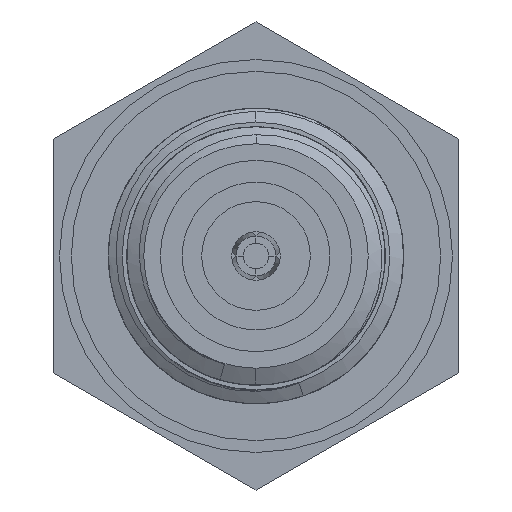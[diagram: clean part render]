
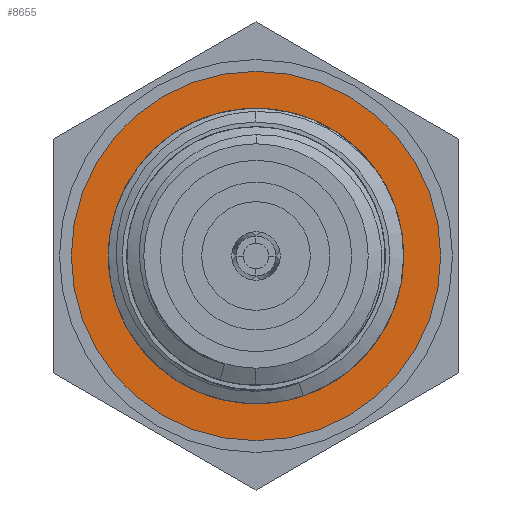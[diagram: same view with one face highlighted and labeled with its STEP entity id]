
A CAD part, left-side view. The second image highlights one B-rep face of the part: STEP entity #8655.
In plain terms, the highlighted planar face has unit normal (-1, 0, 0).
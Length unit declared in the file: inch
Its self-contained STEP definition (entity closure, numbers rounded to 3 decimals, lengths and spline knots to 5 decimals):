
#213=CARTESIAN_POINT('',(-0.013,0.,0.));
#214=DIRECTION('',(1.,0.,0.));
#215=DIRECTION('',(0.,0.,1.));
#216=AXIS2_PLACEMENT_3D('',#213,#214,#215);
#218=CARTESIAN_POINT('',(-0.013,0.,0.));
#219=DIRECTION('',(1.,0.,0.));
#220=DIRECTION('',(0.,0.,-1.));
#221=AXIS2_PLACEMENT_3D('',#218,#219,#220);
#223=CARTESIAN_POINT('',(-0.013,0.,0.));
#224=DIRECTION('',(-1.,0.,0.));
#225=DIRECTION('',(0.,1.,0.));
#226=AXIS2_PLACEMENT_3D('',#223,#224,#225);
#228=CARTESIAN_POINT('',(-0.013,0.,0.));
#229=DIRECTION('',(-1.,0.,0.));
#230=DIRECTION('',(0.,-1.,0.));
#231=AXIS2_PLACEMENT_3D('',#228,#229,#230);
#7003=CARTESIAN_POINT('',(-0.013,0.,-0.3125));
#7004=VERTEX_POINT('',#7003);
#7005=CARTESIAN_POINT('',(-0.013,0.,0.3125));
#7006=VERTEX_POINT('',#7005);
#7007=CARTESIAN_POINT('',(-0.013,0.25,0.));
#7008=CARTESIAN_POINT('',(-0.013,-0.25,0.));
#7009=VERTEX_POINT('',#7007);
#7010=VERTEX_POINT('',#7008);
#8640=CARTESIAN_POINT('',(-0.013,0.,0.));
#8641=DIRECTION('',(1.,0.,0.));
#8642=DIRECTION('',(0.,0.,1.));
#8643=AXIS2_PLACEMENT_3D('',#8640,#8641,#8642);
#8644=PLANE('',#8643);
#8645=ORIENTED_EDGE('',*,*,#8620,.T.);
#8646=ORIENTED_EDGE('',*,*,#8634,.T.);
#8647=EDGE_LOOP('',(#8645,#8646));
#8648=FACE_OUTER_BOUND('',#8647,.F.);
#8650=ORIENTED_EDGE('',*,*,#8649,.T.);
#8652=ORIENTED_EDGE('',*,*,#8651,.T.);
#8653=EDGE_LOOP('',(#8650,#8652));
#8654=FACE_BOUND('',#8653,.F.);
#8655=ADVANCED_FACE('',(#8648,#8654),#8644,.F.);
#217=CIRCLE('',#216,0.3125);
#222=CIRCLE('',#221,0.3125);
#227=CIRCLE('',#226,0.25);
#232=CIRCLE('',#231,0.25);
#8620=EDGE_CURVE('',#7006,#7004,#217,.T.);
#8634=EDGE_CURVE('',#7004,#7006,#222,.T.);
#8649=EDGE_CURVE('',#7009,#7010,#227,.T.);
#8651=EDGE_CURVE('',#7010,#7009,#232,.T.);
